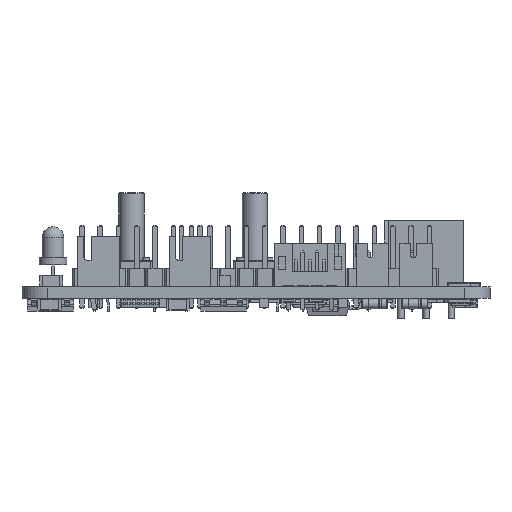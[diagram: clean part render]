
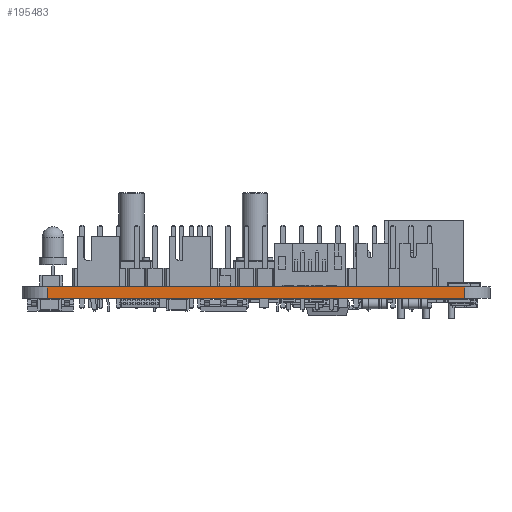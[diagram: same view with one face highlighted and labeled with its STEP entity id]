
A CAD part, left-side view. The second image highlights one B-rep face of the part: STEP entity #195483.
In plain terms, the highlighted planar face has unit normal (-1, 0, 0).
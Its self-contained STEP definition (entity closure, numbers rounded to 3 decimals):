
#188790 = CYLINDRICAL_SURFACE('',#188791,3.5);
#188791 = AXIS2_PLACEMENT_3D('',#188792,#188793,#188794);
#188792 = CARTESIAN_POINT('',(-38.728,61.5,0.));
#188793 = DIRECTION('',(0.,0.,-1.));
#188794 = DIRECTION('',(1.,0.,0.));
#188818 = PLANE('',#188819);
#188819 = AXIS2_PLACEMENT_3D('',#188820,#188821,#188822);
#188820 = CARTESIAN_POINT('',(-20.79,32.5,1.6));
#188821 = DIRECTION('',(0.,0.,-1.));
#188822 = DIRECTION('',(-1.,0.,0.));
#188872 = PLANE('',#188873);
#188873 = AXIS2_PLACEMENT_3D('',#188874,#188875,#188876);
#188874 = CARTESIAN_POINT('',(-20.79,32.5,0.));
#188875 = DIRECTION('',(0.,0.,-1.));
#188876 = DIRECTION('',(-1.,0.,0.));
#188889 = VERTEX_POINT('',#188890);
#188890 = CARTESIAN_POINT('',(-42.228,61.5,1.6));
#188916 = EDGE_CURVE('',#188917,#188889,#188919,.T.);
#188917 = VERTEX_POINT('',#188918);
#188918 = CARTESIAN_POINT('',(-42.228,61.5,0.));
#188919 = SURFACE_CURVE('',#188920,(#188924,#188931),.PCURVE_S1.);
#188920 = LINE('',#188921,#188922);
#188921 = CARTESIAN_POINT('',(-42.228,61.5,0.));
#188922 = VECTOR('',#188923,1.);
#188923 = DIRECTION('',(0.,0.,1.));
#188924 = PCURVE('',#188790,#188925);
#188925 = DEFINITIONAL_REPRESENTATION('',(#188926),#188930);
#188926 = LINE('',#188927,#188928);
#188927 = CARTESIAN_POINT('',(-3.142,0.));
#188928 = VECTOR('',#188929,1.);
#188929 = DIRECTION('',(0.,-1.));
#188930 = ( GEOMETRIC_REPRESENTATION_CONTEXT(2) 
PARAMETRIC_REPRESENTATION_CONTEXT() REPRESENTATION_CONTEXT('2D SPACE',''
  ) );
#188931 = PCURVE('',#188932,#188937);
#188932 = PLANE('',#188933);
#188933 = AXIS2_PLACEMENT_3D('',#188934,#188935,#188936);
#188934 = CARTESIAN_POINT('',(-42.228,3.5,0.));
#188935 = DIRECTION('',(-1.,0.,0.));
#188936 = DIRECTION('',(0.,1.,0.));
#188937 = DEFINITIONAL_REPRESENTATION('',(#188938),#188942);
#188938 = LINE('',#188939,#188940);
#188939 = CARTESIAN_POINT('',(58.,0.));
#188940 = VECTOR('',#188941,1.);
#188941 = DIRECTION('',(0.,-1.));
#188942 = ( GEOMETRIC_REPRESENTATION_CONTEXT(2) 
PARAMETRIC_REPRESENTATION_CONTEXT() REPRESENTATION_CONTEXT('2D SPACE',''
  ) );
#189131 = VERTEX_POINT('',#189132);
#189132 = CARTESIAN_POINT('',(-42.228,3.5,0.));
#189151 = CYLINDRICAL_SURFACE('',#189152,3.5);
#189152 = AXIS2_PLACEMENT_3D('',#189153,#189154,#189155);
#189153 = CARTESIAN_POINT('',(-38.728,3.5,0.));
#189154 = DIRECTION('',(0.,0.,-1.));
#189155 = DIRECTION('',(1.,0.,0.));
#189163 = EDGE_CURVE('',#189131,#188917,#189164,.T.);
#189164 = SURFACE_CURVE('',#189165,(#189169,#189176),.PCURVE_S1.);
#189165 = LINE('',#189166,#189167);
#189166 = CARTESIAN_POINT('',(-42.228,3.5,0.));
#189167 = VECTOR('',#189168,1.);
#189168 = DIRECTION('',(0.,1.,0.));
#189169 = PCURVE('',#188872,#189170);
#189170 = DEFINITIONAL_REPRESENTATION('',(#189171),#189175);
#189171 = LINE('',#189172,#189173);
#189172 = CARTESIAN_POINT('',(21.438,-29.));
#189173 = VECTOR('',#189174,1.);
#189174 = DIRECTION('',(0.,1.));
#189175 = ( GEOMETRIC_REPRESENTATION_CONTEXT(2) 
PARAMETRIC_REPRESENTATION_CONTEXT() REPRESENTATION_CONTEXT('2D SPACE',''
  ) );
#189176 = PCURVE('',#188932,#189177);
#189177 = DEFINITIONAL_REPRESENTATION('',(#189178),#189182);
#189178 = LINE('',#189179,#189180);
#189179 = CARTESIAN_POINT('',(0.,0.));
#189180 = VECTOR('',#189181,1.);
#189181 = DIRECTION('',(1.,0.));
#189182 = ( GEOMETRIC_REPRESENTATION_CONTEXT(2) 
PARAMETRIC_REPRESENTATION_CONTEXT() REPRESENTATION_CONTEXT('2D SPACE',''
  ) );
#192585 = VERTEX_POINT('',#192586);
#192586 = CARTESIAN_POINT('',(-42.228,3.5,1.6));
#192612 = EDGE_CURVE('',#192585,#188889,#192613,.T.);
#192613 = SURFACE_CURVE('',#192614,(#192618,#192625),.PCURVE_S1.);
#192614 = LINE('',#192615,#192616);
#192615 = CARTESIAN_POINT('',(-42.228,3.5,1.6));
#192616 = VECTOR('',#192617,1.);
#192617 = DIRECTION('',(0.,1.,0.));
#192618 = PCURVE('',#188818,#192619);
#192619 = DEFINITIONAL_REPRESENTATION('',(#192620),#192624);
#192620 = LINE('',#192621,#192622);
#192621 = CARTESIAN_POINT('',(21.438,-29.));
#192622 = VECTOR('',#192623,1.);
#192623 = DIRECTION('',(0.,1.));
#192624 = ( GEOMETRIC_REPRESENTATION_CONTEXT(2) 
PARAMETRIC_REPRESENTATION_CONTEXT() REPRESENTATION_CONTEXT('2D SPACE',''
  ) );
#192625 = PCURVE('',#188932,#192626);
#192626 = DEFINITIONAL_REPRESENTATION('',(#192627),#192631);
#192627 = LINE('',#192628,#192629);
#192628 = CARTESIAN_POINT('',(0.,-1.6));
#192629 = VECTOR('',#192630,1.);
#192630 = DIRECTION('',(1.,0.));
#192631 = ( GEOMETRIC_REPRESENTATION_CONTEXT(2) 
PARAMETRIC_REPRESENTATION_CONTEXT() REPRESENTATION_CONTEXT('2D SPACE',''
  ) );
#195483 = ADVANCED_FACE('',(#195484),#188932,.T.);
#195484 = FACE_BOUND('',#195485,.T.);
#195485 = EDGE_LOOP('',(#195486,#195507,#195508,#195509));
#195486 = ORIENTED_EDGE('',*,*,#195487,.T.);
#195487 = EDGE_CURVE('',#189131,#192585,#195488,.T.);
#195488 = SURFACE_CURVE('',#195489,(#195493,#195500),.PCURVE_S1.);
#195489 = LINE('',#195490,#195491);
#195490 = CARTESIAN_POINT('',(-42.228,3.5,0.));
#195491 = VECTOR('',#195492,1.);
#195492 = DIRECTION('',(0.,0.,1.));
#195493 = PCURVE('',#188932,#195494);
#195494 = DEFINITIONAL_REPRESENTATION('',(#195495),#195499);
#195495 = LINE('',#195496,#195497);
#195496 = CARTESIAN_POINT('',(0.,0.));
#195497 = VECTOR('',#195498,1.);
#195498 = DIRECTION('',(0.,-1.));
#195499 = ( GEOMETRIC_REPRESENTATION_CONTEXT(2) 
PARAMETRIC_REPRESENTATION_CONTEXT() REPRESENTATION_CONTEXT('2D SPACE',''
  ) );
#195500 = PCURVE('',#189151,#195501);
#195501 = DEFINITIONAL_REPRESENTATION('',(#195502),#195506);
#195502 = LINE('',#195503,#195504);
#195503 = CARTESIAN_POINT('',(-3.142,0.));
#195504 = VECTOR('',#195505,1.);
#195505 = DIRECTION('',(0.,-1.));
#195506 = ( GEOMETRIC_REPRESENTATION_CONTEXT(2) 
PARAMETRIC_REPRESENTATION_CONTEXT() REPRESENTATION_CONTEXT('2D SPACE',''
  ) );
#195507 = ORIENTED_EDGE('',*,*,#192612,.T.);
#195508 = ORIENTED_EDGE('',*,*,#188916,.F.);
#195509 = ORIENTED_EDGE('',*,*,#189163,.F.);
